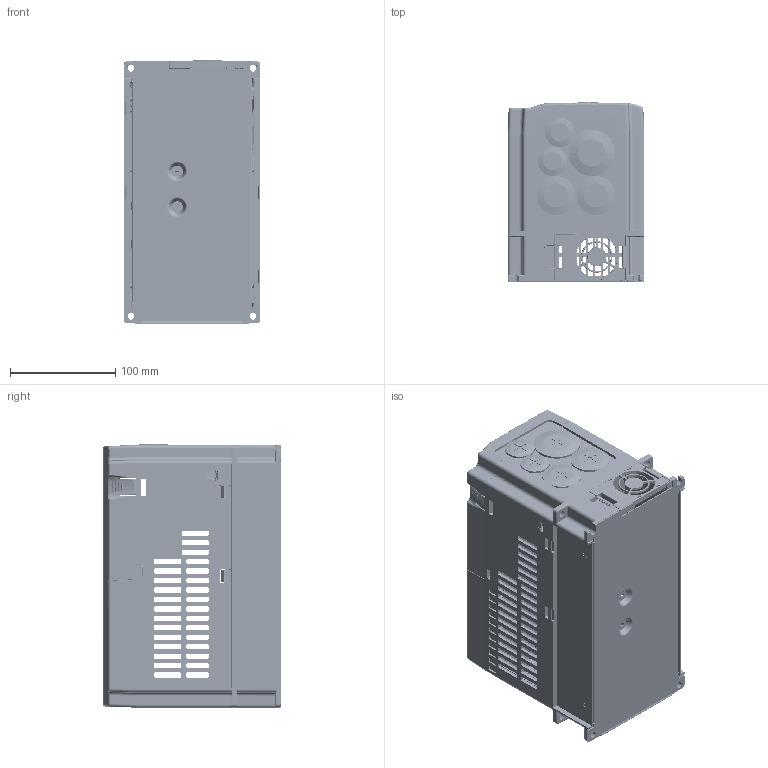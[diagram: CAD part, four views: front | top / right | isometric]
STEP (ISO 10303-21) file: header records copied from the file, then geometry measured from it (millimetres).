
FILE_DESCRIPTION((''),'2;1');
FILE_NAME('ASM0001_ASM','2020-01-02T14:12:46',('TONY.DAI'),(''),'CREO PARAMETRIC BY PTC INC, 2018500','CREO PARAMETRIC BY PTC INC, 2018500','');
FILE_SCHEMA(('AUTOMOTIVE_DESIGN { 1 0 10303 214 1 1 1 1 }'));
Products named in the file (66): VFD-C-A-PD-3D01_1; VFD-C-A-PD-3D01_2; VFD-C-A-PD-3D01_3; VFD-C-A-PD-3D01_6; VFD-C-A-PD-3D01_7; VFD-C-A-PD-3D01_8; VFD-C-A-PD-3D01_9; VFD-C-A-PD-3D01_10; VFD-C-A-PD-3D01_11; VFD-C-A-PD-3D01_12; VFD-C-A-PD-3D01_13; VFD-C-A-PD-3D01_14; VFD-C-A-PD-3D01_15; VFD-C-A-PD-3D01_18; VFD-C-A-PD-3D01_19; VFD-C-A-PD-3D01_22; VFD-C-A-PD-3D01_23; VFD-C-A-PD-3D01_24; VFD-C-A-PD-3D01_25; VFD-C-A-PD-3D01_26; VFD-C-A-PD-3D01_27; VFD-C-A-PD-3D01_30; VFD-C-A-PD-3D01_31; VFD-C-A-PD-3D01_36; VFD-C-A-PD-3D01_37; VFD-C-A-PD-3D01_38; VFD-C-A-PD-3D01_39; VFD-C-A-PD-3D01_40; VFD-C-A-PD-3D01_41; VFD-C-A-PD-3D01_43; VFD-C-A-PD-3D01_44; VFD-C-A-PD-3D01_46; VFD-C-A-PD-3D01_47; VFD-C-A-PD-3D01_48; VFD-C-A-PD-3D01_49; VFD-C-A-PD-3D01_50; VFD-C-A-PD-3D01_51; VFD-C-A-PD-3D01_52; VFD-C-A-PD-3D01_53; VFD-C-A-PD-3D01_54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
Assembly tree (65 placements, depth 2):
  ASM0001_ASM
    VFD-C-A-PD-3D01_1
    VFD-C-A-PD-3D01_2
    VFD-C-A-PD-3D01_3
    VFD-C-A-PD-3D01_6
    VFD-C-A-PD-3D01_7
    VFD-C-A-PD-3D01_8
    VFD-C-A-PD-3D01_9
    VFD-C-A-PD-3D01_10
    VFD-C-A-PD-3D01_11
    VFD-C-A-PD-3D01_12
    VFD-C-A-PD-3D01_13
    VFD-C-A-PD-3D01_14
    VFD-C-A-PD-3D01_15
    VFD-C-A-PD-3D01_18
    VFD-C-A-PD-3D01_19
    VFD-C-A-PD-3D01_22
    VFD-C-A-PD-3D01_23
    VFD-C-A-PD-3D01_24
    VFD-C-A-PD-3D01_25
    VFD-C-A-PD-3D01_26
    VFD-C-A-PD-3D01_27
    VFD-C-A-PD-3D01_30
    VFD-C-A-PD-3D01_31
    VFD-C-A-PD-3D01_36
    VFD-C-A-PD-3D01_37
    VFD-C-A-PD-3D01_38
    VFD-C-A-PD-3D01_39
    VFD-C-A-PD-3D01_40
    VFD-C-A-PD-3D01_41
    VFD-C-A-PD-3D01_43
    VFD-C-A-PD-3D01_44
    VFD-C-A-PD-3D01_46
    VFD-C-A-PD-3D01_47
    VFD-C-A-PD-3D01_48
    VFD-C-A-PD-3D01_49
    VFD-C-A-PD-3D01_50
    VFD-C-A-PD-3D01_51
    VFD-C-A-PD-3D01_52
    VFD-C-A-PD-3D01_53
    VFD-C-A-PD-3D01_54
    VFD-C-A-PD-3D01_55
    VFD-C-A-PD-3D01_56
    VFD-C-A-PD-3D01_57
    VFD-C-A-PD-3D01_58
    VFD-C-A-PD-3D01_59
    VFD-C-A-PD-3D01_60
    VFD-C-A-PD-3D01_61
    VFD-C-A-PD-3D01_62
    VFD-C-A-PD-3D01_63
    VFD-C-A-PD-3D01_64
    VFD-C-A-PD-3D01_65
    VFD-C-A-PD-3D01_66
    VFD-C-A-PD-3D01_67
    VFD-C-A-PD-3D01_68
    VFD-C-A-PD-3D01_72
    VFD-C-A-PD-3D01_73
    VFD-C-A-PD-3D01_74
    VFD-C-A-PD-3D01_77
    VFD-C-A-PD-3D01_78
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Bounding box: 130 x 170 x 250.6 mm (x, y, z)
Volume: 991903.6 mm3; surface area: 651019 mm2
Topology: 65 solids, 74 shells, 11042 faces, 29898 edges, 19264 vertices
Faces by surface type: plane 6087, cylinder 3135, extrusion 577, torus 406, bspline 405, cone 358, sphere 73, revolution 1
Entity records: 393419 total; most frequent: CARTESIAN_POINT 110937, ORIENTED_EDGE 59646, DIRECTION 52890, EDGE_CURVE 29823, VECTOR 19871, LINE 19294, VERTEX_POINT 19264, AXIS2_PLACEMENT_3D 16410
